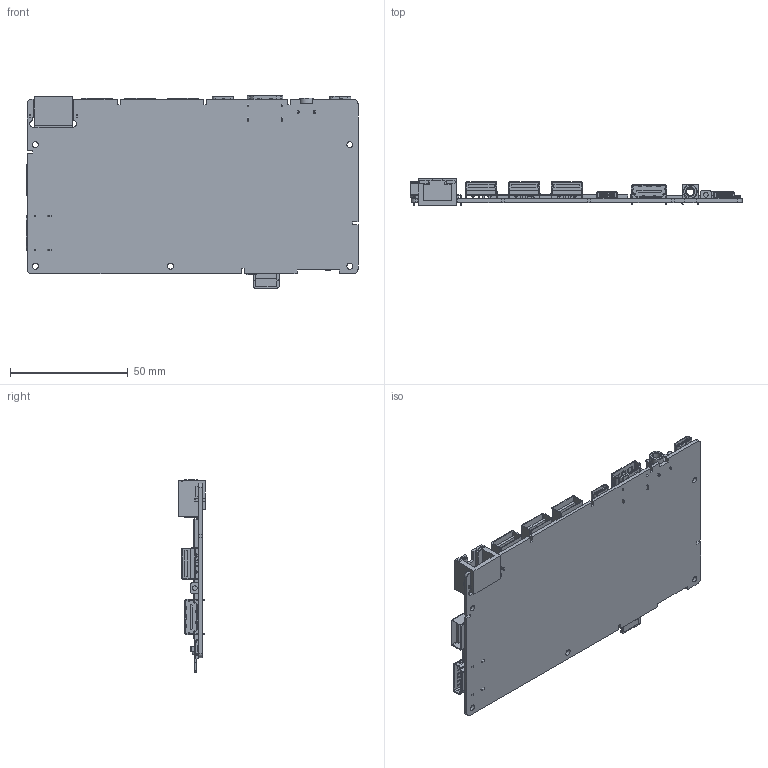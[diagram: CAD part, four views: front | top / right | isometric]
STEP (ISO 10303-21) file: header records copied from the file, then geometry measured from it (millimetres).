
FILE_DESCRIPTION((''),'2;1');
FILE_NAME('PS004_PCBA_ASM','2023-11-30T17:37:35',('admin'),(''),'CREO PARAMETRIC BY PTC INC, 2023072','CREO PARAMETRIC BY PTC INC, 2023072','');
FILE_SCHEMA(('CONFIG_CONTROL_DESIGN','SHAPE_APPEARANCE_LAYERS_GROUPS'));
Products named in the file (24): PCB_147_6; PS006_PCBA; PCBA_TOP_5; PCBA_BOT_5; PCBA_0606_ASM_5_ASM; PRT0003_4_5; 1-2_1_5; USB-2583_1_3_5; USB-16PIN-TYPEC_FIN_1_252_2_5; 123123_3_5; PJ-322YBC_1_00; TS-1035-A_9_5; MICRO-RFB01-H10-01_3; MICRO-RFB01-S10-02_1; MICRO-RFB01-T00-03_3; MICRO-RFB01-A10-00_ASM_3_ASM; MICRO-RFB01-A10-00_ASM_ASM; MSBR-1_1_2_1_5_1; TF-CARD_1_2_1_5_1; CSTT-102010222__ASM_3_ASM_2_ASM_ASM; TF_14M75X14M5_H2M0_ASM_2_ASM_3__ASM; TF_14M75X14M5_H2_ASM; P_PS004_01; PS004_PCBA_ASM
Assembly tree (33 placements, depth 5):
  PS004_PCBA_ASM
    PCBA_0606_ASM_5_ASM
      PCB_147_6
      PS006_PCBA
      PCBA_TOP_5
      PCBA_BOT_5
    PRT0003_4_5
    1-2_1_5
    USB-2583_1_3_5  x4
    USB-16PIN-TYPEC_FIN_1_252_2_5  x2
    123123_3_5  x2
    PJ-322YBC_1_00
    TS-1035-A_9_5  x3
    MICRO-RFB01-A10-00_ASM_ASM  x3
      MICRO-RFB01-A10-00_ASM_3_ASM
        MICRO-RFB01-H10-01_3
        MICRO-RFB01-S10-02_1
        MICRO-RFB01-T00-03_3
    TF_14M75X14M5_H2_ASM
      TF_14M75X14M5_H2M0_ASM_2_ASM_3__ASM
        CSTT-102010222__ASM_3_ASM_2_ASM_ASM
          MSBR-1_1_2_1_5_1
          TF-CARD_1_2_1_5_1  x2
    P_PS004_01
Bounding box: 141.15 x 11.4 x 81.7 mm (x, y, z)
Volume: 23329.9 mm3; surface area: 40995.9 mm2
Topology: 28 solids, 33 shells, 4551 faces, 13288 edges, 8832 vertices
Faces by surface type: plane 3225, cylinder 1103, bspline 84, torus 69, cone 40, extrusion 16, sphere 12, revolution 2
Entity records: 112018 total; most frequent: CARTESIAN_POINT 26154, ORIENTED_EDGE 17242, DIRECTION 15649, EDGE_CURVE 8621, VECTOR 6691, LINE 6683, VERTEX_POINT 5704, AXIS2_PLACEMENT_3D 4478
